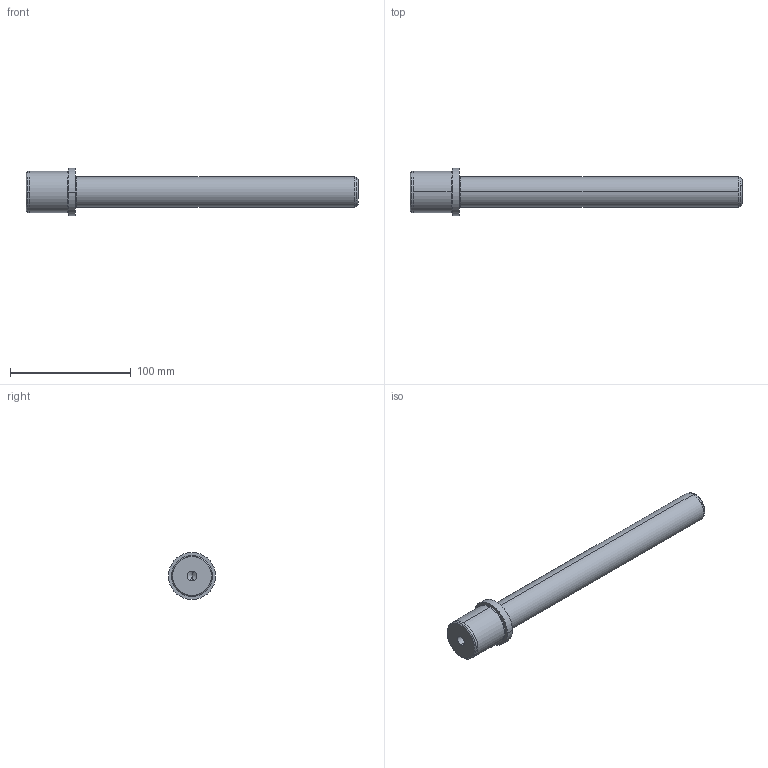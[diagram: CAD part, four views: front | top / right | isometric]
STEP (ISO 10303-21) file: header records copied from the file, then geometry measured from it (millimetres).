
FILE_DESCRIPTION (( 'STEP AP214' ), '1' );
FILE_NAME ('D05_25x240x35.step', '2011-12-18T21:39:52', ( 'Dell' ), ( '' ), 'SwSTEP 2.0', 'SolidWorks 2010', '' );
FILE_SCHEMA (( 'AUTOMOTIVE_DESIGN' ));
Length unit declared in the file: millimetre
Products named in the file (1): D05_25x240x35
Bounding box: 275 x 39 x 39 mm (x, y, z)
Volume: 152872.1 mm3; surface area: 25458.6 mm2
Topology: 1 solids, 1 shells, 29 faces, 62 edges, 39 vertices
Faces by surface type: cylinder 14, plane 7, cone 6, bspline 2
Entity records: 844 total; most frequent: CARTESIAN_POINT 165, DIRECTION 152, ORIENTED_EDGE 120, AXIS2_PLACEMENT_3D 66, EDGE_CURVE 60, VERTEX_POINT 39, CIRCLE 38, EDGE_LOOP 35
